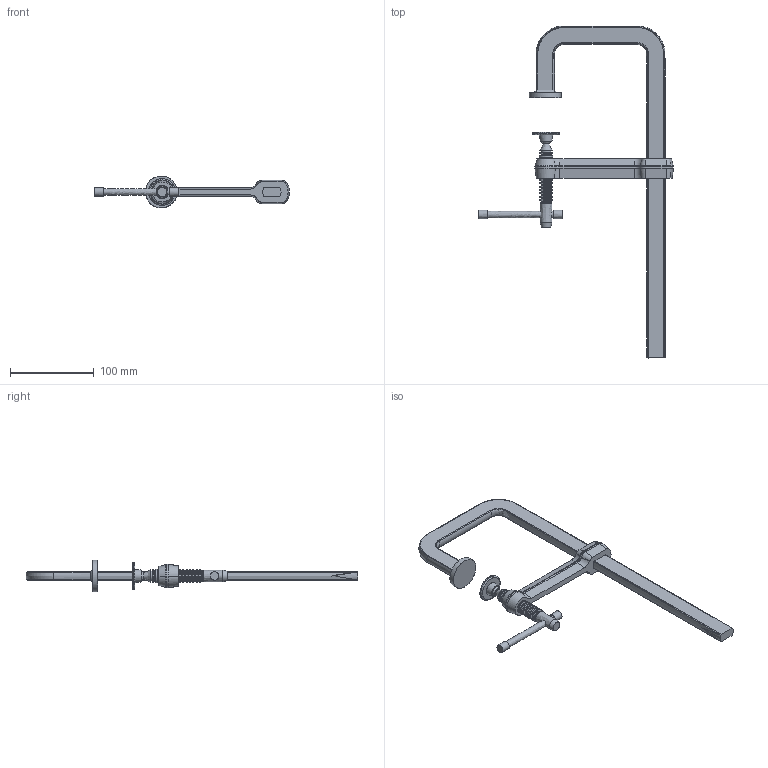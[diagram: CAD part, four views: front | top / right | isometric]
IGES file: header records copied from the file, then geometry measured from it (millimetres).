
Start section: ZWSOFT
Global section: file name: GU25-12-6ZK.igs; native system: ZW3D; preprocessor: 1.0; author: ZW3D; organization: ZWSOFT; date: 131210.132159; units: millimetre
Bounding box: 233 x 396.98 x 38 mm (x, y, z)
Surface area: 62419.3 mm2 (no closed solid volume)
Topology: 0 solids, 0 shells, 196 faces, 882 edges, 723 vertices
Faces by surface type: bspline 196
